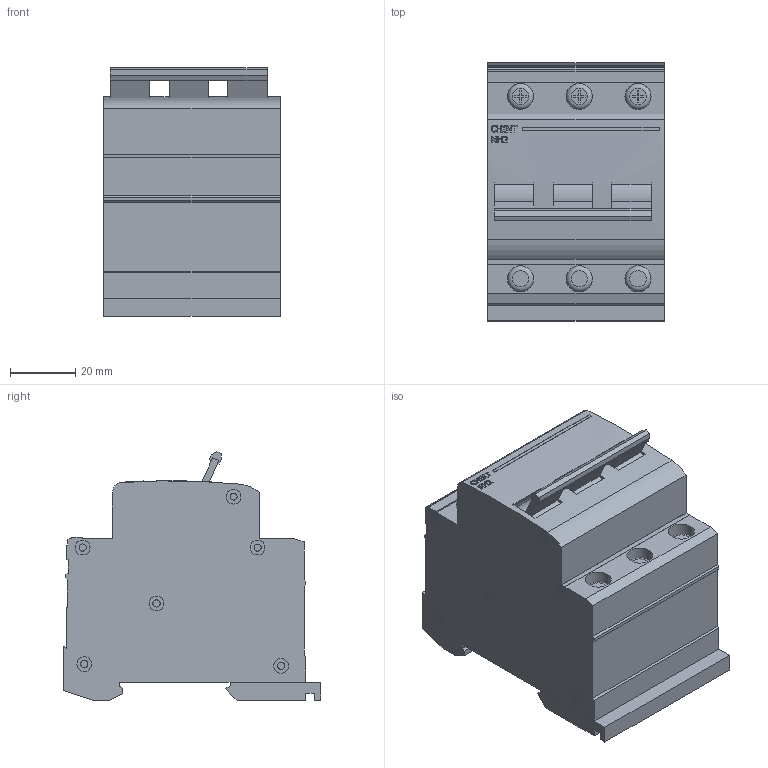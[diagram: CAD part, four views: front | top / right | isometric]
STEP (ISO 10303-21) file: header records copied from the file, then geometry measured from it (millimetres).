
FILE_DESCRIPTION(/* description */ (''),/* implementation_level */ '2;1');
FILE_NAME(/* name */ 'D:\CHINT\NH2\Нагр. выключатель NH2 3P 32A (CHINT).stp',/* time_stamp */ '2017-09-30T15:15:45+04:00',/* author */ ('RSagdiev'),/* organization */ (''),/* preprocessor_version */ 'ST-DEVELOPER v16.5',/* originating_system */ 'Autodesk Inventor 2017',/* authorisation */ '');
FILE_SCHEMA (('AUTOMOTIVE_DESIGN { 1 0 10303 214 3 1 1 }'));
Length unit declared in the file: millimetre
Products named in the file (1): Нагр. \X2\0432044B043A043B044E0447
043004420435043B044C\X0\ NH2 3P 32A (CHINT)
Bounding box: 54 x 79 x 76.13 mm (x, y, z)
Volume: 225149.3 mm3; surface area: 36266 mm2
Topology: 12 solids, 20 shells, 428 faces, 954 edges, 628 vertices
Faces by surface type: plane 299, cylinder 96, bspline 27, torus 6
Full cylindrical faces by diameter (mm): 2.111 x6, 2.171 x6, 2.212 x18, 4.524 x24, 8 x12
Entity records: 12102 total; most frequent: CARTESIAN_POINT 2715, DIRECTION 1900, ORIENTED_EDGE 1764, EDGE_CURVE 882, AXIS2_PLACEMENT_3D 676, VERTEX_POINT 628, EDGE_LOOP 572, LINE 548
